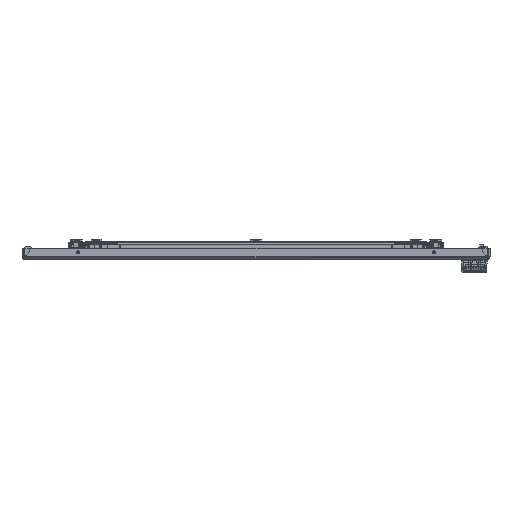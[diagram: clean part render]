
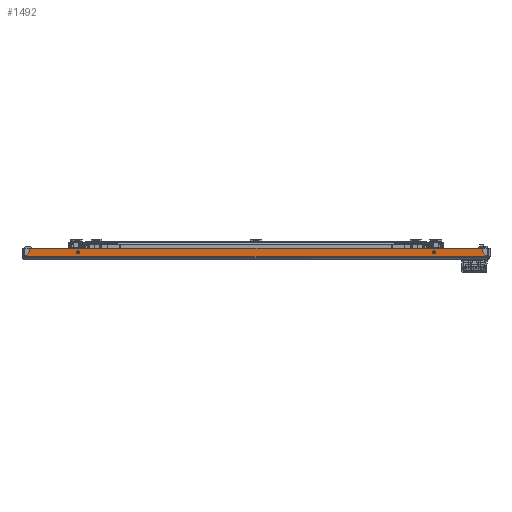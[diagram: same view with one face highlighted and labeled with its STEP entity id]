
A CAD part, front view. The second image highlights one B-rep face of the part: STEP entity #1492.
In plain terms, the highlighted planar face has unit normal (0, -1, 0).
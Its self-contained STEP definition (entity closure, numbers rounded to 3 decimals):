
#1492=ADVANCED_FACE('',(#53601,#53603,#53605),#53607,.F.);
#53601=FACE_BOUND('',#53602,.T.);
#53602=EDGE_LOOP('',(#115134,#115135,#115136,#115137,#115138,#115139));
#53603=FACE_BOUND('',#53604,.T.);
#53604=EDGE_LOOP('',(#115140));
#53605=FACE_BOUND('',#53606,.T.);
#53606=EDGE_LOOP('',(#115141));
#53607=PLANE('',#53608);
#53608=AXIS2_PLACEMENT_3D('',#53609,#53610,#53611);
#53609=CARTESIAN_POINT('',(0.,-793.2,0.));
#53610=DIRECTION('',(0.,1.,0.));
#53611=DIRECTION('',(0.,0.,-1.));
#115134=ORIENTED_EDGE('',*,*,#142774,.F.);
#115135=ORIENTED_EDGE('',*,*,#142775,.T.);
#115136=ORIENTED_EDGE('',*,*,#142776,.F.);
#115137=ORIENTED_EDGE('',*,*,#142777,.T.);
#115138=ORIENTED_EDGE('',*,*,#142778,.F.);
#115139=ORIENTED_EDGE('',*,*,#142772,.F.);
#115140=ORIENTED_EDGE('',*,*,#142589,.T.);
#115141=ORIENTED_EDGE('',*,*,#142591,.F.);
#142589=EDGE_CURVE('',#156467,#156467,#156468,.T.);
#142591=EDGE_CURVE('',#156471,#156471,#156472,.T.);
#142772=EDGE_CURVE('',#156782,#156775,#156785,.T.);
#142774=EDGE_CURVE('',#156787,#156782,#156788,.T.);
#142775=EDGE_CURVE('',#156787,#156789,#156790,.T.);
#142776=EDGE_CURVE('',#156791,#156789,#156792,.T.);
#142777=EDGE_CURVE('',#156791,#156793,#156794,.T.);
#142778=EDGE_CURVE('',#156775,#156793,#156795,.T.);
#156467=VERTEX_POINT('',#179075);
#156468=CIRCLE('',#179076,2.);
#156471=VERTEX_POINT('',#179085);
#156472=CIRCLE('',#179086,2.);
#156775=VERTEX_POINT('',#179928);
#156782=VERTEX_POINT('',#179983);
#156785=LINE('',#180004,#180005);
#156787=VERTEX_POINT('',#180010);
#156788=LINE('',#180011,#180012);
#156789=VERTEX_POINT('',#180014);
#156790=LINE('',#180015,#180016);
#156791=VERTEX_POINT('',#180018);
#156792=LINE('',#180019,#180020);
#156793=VERTEX_POINT('',#180022);
#156794=LINE('',#180023,#180024);
#156795=LINE('',#180026,#180027);
#179075=CARTESIAN_POINT('',(223.2,-793.2,10.7));
#179076=AXIS2_PLACEMENT_3D('',#179077,#179078,#179079);
#179077=CARTESIAN_POINT('',(223.2,-793.2,8.7));
#179078=DIRECTION('',(0.,1.,0.));
#179079=DIRECTION('',(0.,0.,1.));
#179085=CARTESIAN_POINT('',(-223.2,-793.2,10.7));
#179086=AXIS2_PLACEMENT_3D('',#179087,#179088,#179089);
#179087=CARTESIAN_POINT('',(-223.2,-793.2,8.7));
#179088=DIRECTION('',(0.,-1.,0.));
#179089=DIRECTION('',(0.,0.,-1.));
#179928=CARTESIAN_POINT('',(-289.623,-793.2,3.4));
#179983=CARTESIAN_POINT('',(289.623,-793.2,3.4));
#180004=CARTESIAN_POINT('',(289.623,-793.2,3.4));
#180005=VECTOR('',#180006,1.);
#180006=DIRECTION('',(-1.,0.,0.));
#180010=CARTESIAN_POINT('',(283.627,-793.2,9.396));
#180011=CARTESIAN_POINT('',(283.627,-793.2,9.396));
#180012=VECTOR('',#180013,1.);
#180013=DIRECTION('',(0.707,0.,-0.707));
#180014=CARTESIAN_POINT('',(283.627,-793.2,14.));
#180015=CARTESIAN_POINT('',(283.627,-793.2,9.396));
#180016=VECTOR('',#180017,1.);
#180017=DIRECTION('',(0.,0.,1.));
#180018=CARTESIAN_POINT('',(-283.627,-793.2,14.));
#180019=CARTESIAN_POINT('',(-283.627,-793.2,14.));
#180020=VECTOR('',#180021,1.);
#180021=DIRECTION('',(1.,0.,0.));
#180022=CARTESIAN_POINT('',(-283.627,-793.2,9.396));
#180023=CARTESIAN_POINT('',(-283.627,-793.2,14.));
#180024=VECTOR('',#180025,1.);
#180025=DIRECTION('',(0.,0.,-1.));
#180026=CARTESIAN_POINT('',(-289.623,-793.2,3.4));
#180027=VECTOR('',#180028,1.);
#180028=DIRECTION('',(0.707,0.,0.707));
